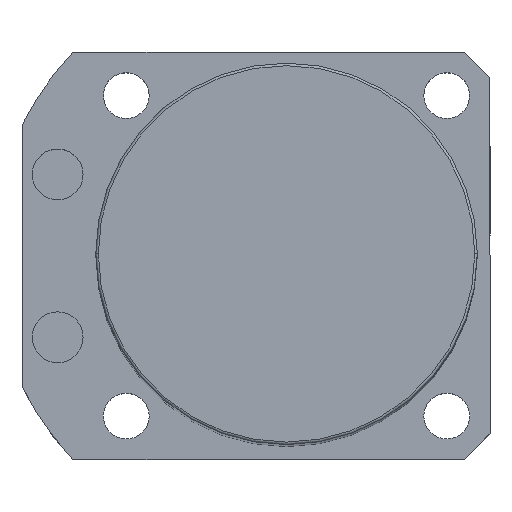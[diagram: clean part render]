
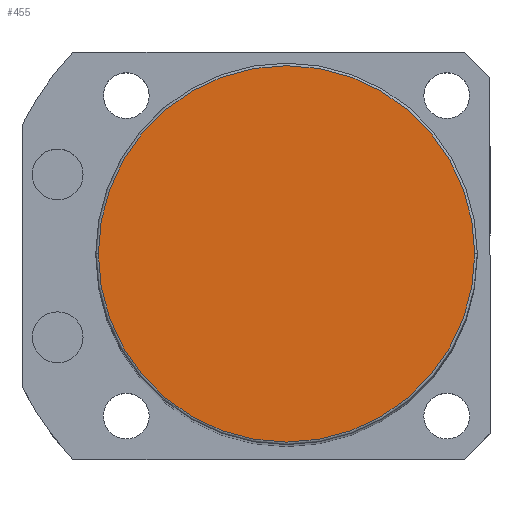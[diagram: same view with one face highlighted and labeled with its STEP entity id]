
A CAD part, top view. The second image highlights one B-rep face of the part: STEP entity #455.
In plain terms, the highlighted planar face has unit normal (0, 0, 1).
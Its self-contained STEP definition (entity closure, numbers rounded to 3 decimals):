
#259 = VERTEX_POINT ( 'NONE', #971 ) ;
#275 = EDGE_CURVE ( 'NONE', #1730, #259, #2266, .T. ) ;
#362 = CARTESIAN_POINT ( 'NONE',  ( 37., 0., 240.5 ) ) ;
#455 = ADVANCED_FACE ( 'NONE', ( #2039 ), #1527, .T. ) ;
#783 = DIRECTION ( 'NONE',  ( 1., 0., 0. ) ) ;
#971 = CARTESIAN_POINT ( 'NONE',  ( -37., 0., 240.5 ) ) ;
#1056 = AXIS2_PLACEMENT_3D ( 'NONE', #2457, #2671, #1803 ) ;
#1133 = AXIS2_PLACEMENT_3D ( 'NONE', #1432, #1203, #783 ) ;
#1153 = EDGE_LOOP ( 'NONE', ( #2813, #2317 ) ) ;
#1203 = DIRECTION ( 'NONE',  ( 0., 0., 1. ) ) ;
#1233 = EDGE_CURVE ( 'NONE', #259, #1730, #2195, .T. ) ;
#1432 = CARTESIAN_POINT ( 'NONE',  ( 0., 0., 240.5 ) ) ;
#1527 = PLANE ( 'NONE',  #1975 ) ;
#1730 = VERTEX_POINT ( 'NONE', #362 ) ;
#1738 = CARTESIAN_POINT ( 'NONE',  ( 0., 0., 240.5 ) ) ;
#1803 = DIRECTION ( 'NONE',  ( 1., 0., 0. ) ) ;
#1941 = DIRECTION ( 'NONE',  ( 1., 0., 0. ) ) ;
#1975 = AXIS2_PLACEMENT_3D ( 'NONE', #1738, #2830, #1941 ) ;
#2039 = FACE_OUTER_BOUND ( 'NONE', #1153, .T. ) ;
#2195 = CIRCLE ( 'NONE', #1056, 37. ) ;
#2266 = CIRCLE ( 'NONE', #1133, 37. ) ;
#2317 = ORIENTED_EDGE ( 'NONE', *, *, #1233, .T. ) ;
#2457 = CARTESIAN_POINT ( 'NONE',  ( 0., 0., 240.5 ) ) ;
#2671 = DIRECTION ( 'NONE',  ( 0., 0., 1. ) ) ;
#2813 = ORIENTED_EDGE ( 'NONE', *, *, #275, .T. ) ;
#2830 = DIRECTION ( 'NONE',  ( 0., 0., 1. ) ) ;
